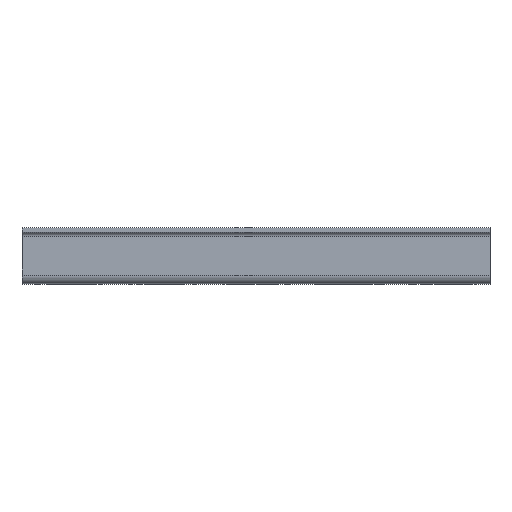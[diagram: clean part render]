
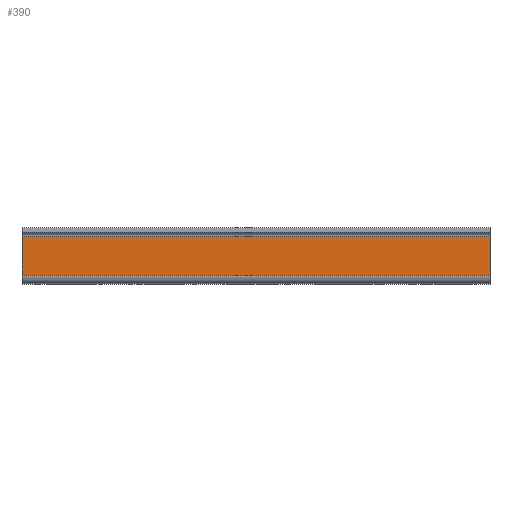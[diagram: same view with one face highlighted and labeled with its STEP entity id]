
A CAD part, top view. The second image highlights one B-rep face of the part: STEP entity #390.
In plain terms, the highlighted planar face has unit normal (0, 0, 1).
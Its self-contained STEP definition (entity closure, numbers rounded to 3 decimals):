
#93 = VERTEX_POINT ( 'NONE', #1097 ) ;
#151 = LINE ( 'NONE', #673, #1382 ) ;
#177 = LINE ( 'NONE', #1518, #808 ) ;
#192 = CARTESIAN_POINT ( 'NONE',  ( -62.5, 11.4, 13.5 ) ) ;
#214 = EDGE_CURVE ( 'NONE', #1222, #93, #1556, .T. ) ;
#217 = VERTEX_POINT ( 'NONE', #1700 ) ;
#252 = PLANE ( 'NONE',  #1111 ) ;
#261 = DIRECTION ( 'NONE',  ( 0., 0., -1. ) ) ;
#328 = DIRECTION ( 'NONE',  ( 0., -1., 0. ) ) ;
#346 = EDGE_LOOP ( 'NONE', ( #396, #410, #762, #642 ) ) ;
#390 = ADVANCED_FACE ( 'NONE', ( #1050 ), #252, .F. ) ;
#396 = ORIENTED_EDGE ( 'NONE', *, *, #1036, .T. ) ;
#410 = ORIENTED_EDGE ( 'NONE', *, *, #214, .F. ) ;
#622 = DIRECTION ( 'NONE',  ( -1., 0., 0. ) ) ;
#642 = ORIENTED_EDGE ( 'NONE', *, *, #1058, .T. ) ;
#673 = CARTESIAN_POINT ( 'NONE',  ( 62.5, 11.4, 13.5 ) ) ;
#762 = ORIENTED_EDGE ( 'NONE', *, *, #1206, .F. ) ;
#781 = DIRECTION ( 'NONE',  ( -1., 0., 0. ) ) ;
#808 = VECTOR ( 'NONE', #328, 1000. ) ;
#989 = CARTESIAN_POINT ( 'NONE',  ( -62.5, 0., 13.5 ) ) ;
#1036 = EDGE_CURVE ( 'NONE', #1041, #93, #1117, .T. ) ;
#1041 = VERTEX_POINT ( 'NONE', #192 ) ;
#1050 = FACE_OUTER_BOUND ( 'NONE', #346, .T. ) ;
#1058 = EDGE_CURVE ( 'NONE', #217, #1041, #151, .T. ) ;
#1097 = CARTESIAN_POINT ( 'NONE',  ( -62.5, 1.2, 13.5 ) ) ;
#1111 = AXIS2_PLACEMENT_3D ( 'NONE', #1431, #261, #781 ) ;
#1117 = LINE ( 'NONE', #989, #1597 ) ;
#1206 = EDGE_CURVE ( 'NONE', #217, #1222, #177, .T. ) ;
#1222 = VERTEX_POINT ( 'NONE', #1638 ) ;
#1226 = VECTOR ( 'NONE', #622, 1000. ) ;
#1272 = CARTESIAN_POINT ( 'NONE',  ( 62.5, 1.2, 13.5 ) ) ;
#1382 = VECTOR ( 'NONE', #1584, 1000. ) ;
#1385 = DIRECTION ( 'NONE',  ( 0., -1., 0. ) ) ;
#1431 = CARTESIAN_POINT ( 'NONE',  ( 62.5, 0., 13.5 ) ) ;
#1518 = CARTESIAN_POINT ( 'NONE',  ( 62.5, 0., 13.5 ) ) ;
#1556 = LINE ( 'NONE', #1272, #1226 ) ;
#1584 = DIRECTION ( 'NONE',  ( -1., 0., 0. ) ) ;
#1597 = VECTOR ( 'NONE', #1385, 1000. ) ;
#1638 = CARTESIAN_POINT ( 'NONE',  ( 62.5, 1.2, 13.5 ) ) ;
#1700 = CARTESIAN_POINT ( 'NONE',  ( 62.5, 11.4, 13.5 ) ) ;
